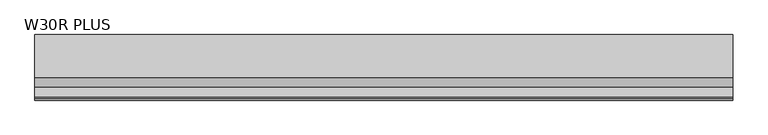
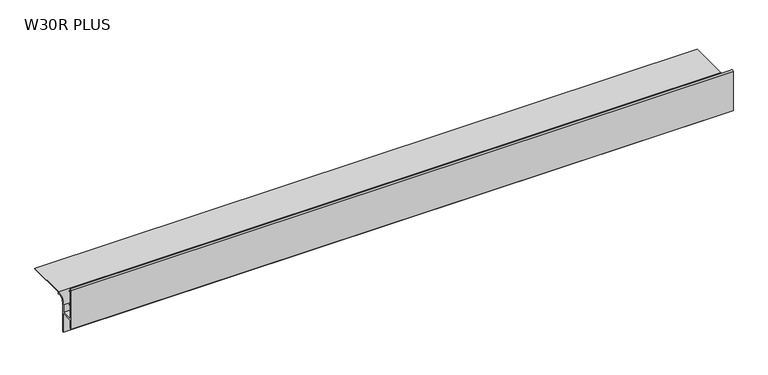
"""IFC4 building model written with IfcOpenShell, lengths in millimetres: proxy geometry, W30R PLUS Profil okapowy prosty z rynną : W30R PLUS."""

import ifcopenshell
import ifcopenshell.guid

model = None  # the IFC model being written
_history = None  # IfcOwnerHistory: only IFC2X3 demands one
_inside = {}  # id of a spatial element -> (the spatial element, [elements in it])
_under = {}  # id of a project, library or spatial element -> (it, [spatial elements below it])
_declared = {}  # id of a project -> (the project, [libraries it declares])
_typed = {}  # id of a type object -> (the type object, [elements of that type])
_made_of = {}  # id of a material, layer set ... -> (it, [elements and type objects made of it])


def new_model(schema):
    """Start an empty IFC model of exactly this schema.

    Asked for "IFC4X3", IfcOpenShell would pick the latest addendum, in which some entities
    have other attributes; the version numbers below select the first issue.
    IFC2X3 requires an IfcOwnerHistory on every rooted entity: one is made here for all.
    """
    global model, _history
    if schema == "IFC4X3":
        model = ifcopenshell.file(schema_version=(4, 3, 0, 0))
    else:
        model = ifcopenshell.file(schema=schema)
    _inside.clear()
    _under.clear()
    _declared.clear()
    _typed.clear()
    _made_of.clear()
    _history = None
    if model.schema == "IFC2X3":
        org = make("IfcOrganization", Name="unknown")
        user = make(
            "IfcPersonAndOrganization",
            ThePerson=make("IfcPerson", FamilyName="unknown"),
            TheOrganization=org,
        )
        app = make(
            "IfcApplication",
            ApplicationDeveloper=org,
            Version="unknown",
            ApplicationFullName="unknown",
            ApplicationIdentifier="unknown",
        )
        _history = make(
            "IfcOwnerHistory",
            OwningUser=user,
            OwningApplication=app,
            ChangeAction="ADDED",
            CreationDate=0,
        )
    return model


def make(cls, **values):
    """One entity of the class cls with the attributes given. An attribute that is None is left unset."""
    return model.create_entity(
        cls, **{name: value for name, value in values.items() if value is not None}
    )


def rooted(cls, **values):
    """An entity with a GlobalId (a new one), such as an element, a storey or a relation."""
    return make(cls, GlobalId=ifcopenshell.guid.new(), OwnerHistory=_history, **values)


def si_unit(unit_type, name, prefix=None):
    """IfcSIUnit, for example si_unit("LENGTHUNIT", "METRE", prefix="MILLI")."""
    return make("IfcSIUnit", UnitType=unit_type, Prefix=prefix, Name=name)


def assignment(units):
    """IfcUnitAssignment: the units of a project."""
    return None if units is None else make("IfcUnitAssignment", Units=units)


def point(xyz):
    """IfcCartesianPoint."""
    return None if xyz is None else make("IfcCartesianPoint", Coordinates=xyz)


def direction(xyz):
    """IfcDirection."""
    return None if xyz is None else make("IfcDirection", DirectionRatios=xyz)


def frame(location, z_axis=None, x_axis=None):
    """IfcAxis2Placement3D, a coordinate frame: its origin and axes. An axis left out is left unset."""
    return make(
        "IfcAxis2Placement3D",
        Location=point(location),
        Axis=direction(z_axis),
        RefDirection=direction(x_axis),
    )


def frame_2d(location, x_axis=None):
    """IfcAxis2Placement2D, a coordinate frame in the plane: its origin and x axis."""
    return make(
        "IfcAxis2Placement2D", Location=point(location), RefDirection=direction(x_axis)
    )


def origin():
    """The frame at (0, 0, 0) with its axes left unset."""
    return frame((0.0, 0.0, 0.0))


def place(relative_to, where):
    """IfcLocalPlacement: puts the frame where relative to a parent placement (None: the world)."""
    return make(
        "IfcLocalPlacement", PlacementRelTo=relative_to, RelativePlacement=where
    )


def context(
    kind, dimensions, precision=None, world=None, true_north=None, identifier=None
):
    """IfcGeometricRepresentationContext, for example the 3D "Model" context."""
    return make(
        "IfcGeometricRepresentationContext",
        ContextIdentifier=identifier,
        ContextType=kind,
        CoordinateSpaceDimension=dimensions,
        Precision=precision,
        WorldCoordinateSystem=world,
        TrueNorth=true_north,
    )


def project(units=None, contexts=None):
    """IfcProject with its units and contexts."""
    return rooted(
        "IfcProject",
        Name="project",
        RepresentationContexts=contexts,
        UnitsInContext=assignment(units),
    )


def spatial(cls, under=None, at=None, **own):
    """A site, building, storey or space (cls), placed at a placement, below another one or the project."""
    s = rooted(cls, ObjectPlacement=at, **own)
    if under is not None:
        _under.setdefault(under.id(), (under, []))[1].append(s)
    return s


def polyline(points):
    """IfcPolyline through the points."""
    return make("IfcPolyline", Points=[point(p) for p in points])


def circle_curve(where, radius):
    """IfcCircle in the frame where."""
    return make("IfcCircle", Position=where, Radius=radius)


def trimmed(basis, trim1, trim2, sense, master):
    """IfcTrimmedCurve: the piece of a basis curve between two trims."""
    return make(
        "IfcTrimmedCurve",
        BasisCurve=basis,
        Trim1=trim1,
        Trim2=trim2,
        SenseAgreement=sense,
        MasterRepresentation=master,
    )


def segment(curve, same_sense, transition):
    """IfcCompositeCurveSegment."""
    return make(
        "IfcCompositeCurveSegment",
        Transition=transition,
        SameSense=same_sense,
        ParentCurve=curve,
    )


def composite_curve(segments, self_intersect=None):
    """IfcCompositeCurve: segments joined end to end."""
    return make("IfcCompositeCurve", Segments=segments, SelfIntersect=self_intersect)


def outline(outer, holes=None, kind="AREA"):
    """IfcArbitraryClosedProfileDef: a profile drawn as a closed curve; with holes, ...WithVoids."""
    if holes is None:
        return make("IfcArbitraryClosedProfileDef", ProfileType=kind, OuterCurve=outer)
    return make(
        "IfcArbitraryProfileDefWithVoids",
        ProfileType=kind,
        OuterCurve=outer,
        InnerCurves=holes,
    )


def extrude(swept, where, along, depth):
    """IfcExtrudedAreaSolid: the profile swept, set in the frame where, extruded along a direction by depth."""
    return make(
        "IfcExtrudedAreaSolid",
        SweptArea=swept,
        Position=where,
        ExtrudedDirection=direction(along),
        Depth=depth,
    )


def shape(context_of_items, identifier, shape_type, items):
    """IfcShapeRepresentation: the items that make up one representation, for example the "Body"."""
    return make(
        "IfcShapeRepresentation",
        ContextOfItems=context_of_items,
        RepresentationIdentifier=identifier,
        RepresentationType=shape_type,
        Items=items,
    )


def source(mapping_origin, context_of_items, identifier, shape_type, items):
    """IfcRepresentationMap: a shape defined once, which mapped items show again and again."""
    return make(
        "IfcRepresentationMap",
        MappingOrigin=mapping_origin,
        MappedRepresentation=shape(context_of_items, identifier, shape_type, items),
    )


def transform(
    local_origin,
    x_axis=None,
    y_axis=None,
    z_axis=None,
    scale=None,
    scale2=None,
    scale3=None,
    uniform=True,
):
    """IfcCartesianTransformationOperator3D, or its non-uniform kind. x_axis, y_axis, z_axis: its Axis1, 2, 3."""
    if uniform:
        return make(
            "IfcCartesianTransformationOperator3D",
            Axis1=direction(x_axis),
            Axis2=direction(y_axis),
            LocalOrigin=point(local_origin),
            Scale=scale,
            Axis3=direction(z_axis),
        )
    return make(
        "IfcCartesianTransformationOperator3DnonUniform",
        Axis1=direction(x_axis),
        Axis2=direction(y_axis),
        LocalOrigin=point(local_origin),
        Scale=scale,
        Axis3=direction(z_axis),
        Scale2=scale2,
        Scale3=scale3,
    )


def mapped(mapping_source, mapping_target):
    """IfcMappedItem: shows the shape of a source again, moved by a transform."""
    return make(
        "IfcMappedItem", MappingSource=mapping_source, MappingTarget=mapping_target
    )


def made_of(thing, what):
    """Note that an element or type object is made of a material, layer set ...; save() writes the relation."""
    if what is not None:
        _made_of.setdefault(what.id(), (what, []))[1].append(thing)
    return thing


def element(
    cls,
    number,
    at=None,
    inside=None,
    cuts=None,
    type_object=None,
    material=None,
    context=None,
    identifier="Body",
    shape_type=None,
    held_by="IfcProductDefinitionShape",
    body=None,
    shapes=None,
    **own,
):
    """One element of the class cls, such as IfcWall. Its Tag is "e" and its number.

    at: its placement. inside: the storey or other place that contains it. cuts: it is an
    opening in that element (IfcRelVoidsElement). A single representation is given by context,
    identifier, shape_type and body (its items); several are given by shapes. held_by: the class
    of the entity that holds the representations. save() writes the other relations.
    """
    e = rooted(cls, Tag="e%d" % number, ObjectPlacement=at, **own)
    if body is not None:
        shapes = [shape(context, identifier, shape_type, body)]
    if shapes is not None:
        e.Representation = make(held_by, Representations=shapes)
    if inside is not None:
        _inside.setdefault(inside.id(), (inside, []))[1].append(e)
    if cuts is not None:
        rooted(
            "IfcRelVoidsElement", RelatingBuildingElement=cuts, RelatedOpeningElement=e
        )
    if type_object is not None:
        _typed.setdefault(type_object.id(), (type_object, []))[1].append(e)
    return made_of(e, material)


def aggregate(whole, parts):
    """IfcRelAggregates: a whole, such as a stair, and the parts it consists of."""
    return rooted("IfcRelAggregates", RelatingObject=whole, RelatedObjects=parts)


def save(model, path):
    """Write the relations noted so far, then the file.

    IfcRelAggregates (storeys below a building ...), IfcRelContainedInSpatialStructure (elements
    in a storey), IfcRelDefinesByType, IfcRelAssociatesMaterial and IfcRelDeclares: one each for
    every whole, place, type object, material and project.
    """
    for whole, parts in _under.values():
        aggregate(whole, parts)
    for where, things in _inside.values():
        rooted(
            "IfcRelContainedInSpatialStructure",
            RelatedElements=things,
            RelatingStructure=where,
        )
    for kind, things in _typed.values():
        rooted("IfcRelDefinesByType", RelatedObjects=things, RelatingType=kind)
    for what, things in _made_of.values():
        rooted("IfcRelAssociatesMaterial", RelatedObjects=things, RelatingMaterial=what)
    for by, libraries in _declared.values():
        rooted("IfcRelDeclares", RelatingContext=by, RelatedDefinitions=libraries)
    model.write(path)


def w30r_plus_e1cf01b4(model_context):
    return source(origin(), model_context, "Body", "SweptSolid", [
        extrude(outline(composite_curve([segment(polyline([(0.0, -1.6974779), (0.0, -5.7), (-1.5, -5.7), (-1.5, -2.4)]), True, "CONTINUOUS"), segment(trimmed(circle_curve(frame_2d((-1.5, -17.0)), 14.6), [point((-1.5, -2.4))], [point((-16.1, -17.0))], True, "CARTESIAN"), True, "CONTINUOUS"), segment(polyline([(-16.1, -17.0), (-16.1, -73.2535534), (-17.6, -74.7535534), (-17.6, -34.7), (-42.0, -34.7), (-42.0, -51.3622205), (-43.5, -53.2278443), (-43.5, 27.2077037)]), True, "CONTINUOUS"), segment(trimmed(circle_curve(frame_2d((-40.7, 27.2077037)), 2.8), [point((-43.5, 27.2077037))], [point((-40.7, 30.0077037))], False, "CARTESIAN"), True, "CONTINUOUS"), segment(polyline([(-40.7, 30.0077037), (-40.7, 28.2077037)]), True, "CONTINUOUS"), segment(trimmed(circle_curve(frame_2d((-40.7, 27.2077037)), 1.0), [point((-40.7, 28.2077037))], [point((-41.7, 27.2077037))], True, "CARTESIAN"), True, "CONTINUOUS"), segment(polyline([(-41.7, 27.2077037), (-41.7, 24.3), (-38.5, 24.3), (-38.5, 22.8), (-42.0, 22.8), (-42.0, -3.8), (-38.5, -3.8), (-38.5, -5.3), (-42.0, -5.3), (-42.0, -32.3), (-18.5, -32.3), (-18.5, -17.0)]), True, "CONTINUOUS"), segment(trimmed(circle_curve(frame_2d((-1.5, -17.0)), 17.0), [point((-18.5, -17.0))], [point((-1.5, 0.0))], False, "CARTESIAN"), True, "CONTINUOUS"), segment(polyline([(-1.5, 0.0), (79.1, 0.0), (79.1, -1.6974779), (0.0, -1.6974779)]), True, "CONTINUOUS")], self_intersect=False)), frame((0.0, 0.0, 0.0), z_axis=(1.0, 0.0, 0.0), x_axis=(0.0, 1.0, 0.0)), (0.0, 0.0, 1.0), 1305.0),
    ])


if __name__ == "__main__":
    model = new_model("IFC4")
    model_context = context("Model", 3, world=origin())
    ifc_project = project(units=[si_unit("LENGTHUNIT", "METRE", prefix="MILLI")], contexts=[model_context])
    site = spatial("IfcSite", under=ifc_project)
    building = spatial("IfcBuilding", under=site)
    placement = place(None, origin())
    w30r_plus_shape = w30r_plus_e1cf01b4(model_context)
    element("IfcBuildingElementProxy", 1, Name="W30R PLUS Profil okapowy prosty z rynną : W30R PLUS", ObjectType="W30R PLUS Profil okapowy prosty z rynną : W30R PLUS", at=placement, inside=building, context=model_context, shape_type="MappedRepresentation", body=[
        mapped(w30r_plus_shape, transform((0.0, 0.0, 0.0), x_axis=(1.0, 0.0, 0.0), y_axis=(0.0, 1.0, 0.0), z_axis=(0.0, 0.0, 1.0))),
    ])
    save(model, "model.ifc")
